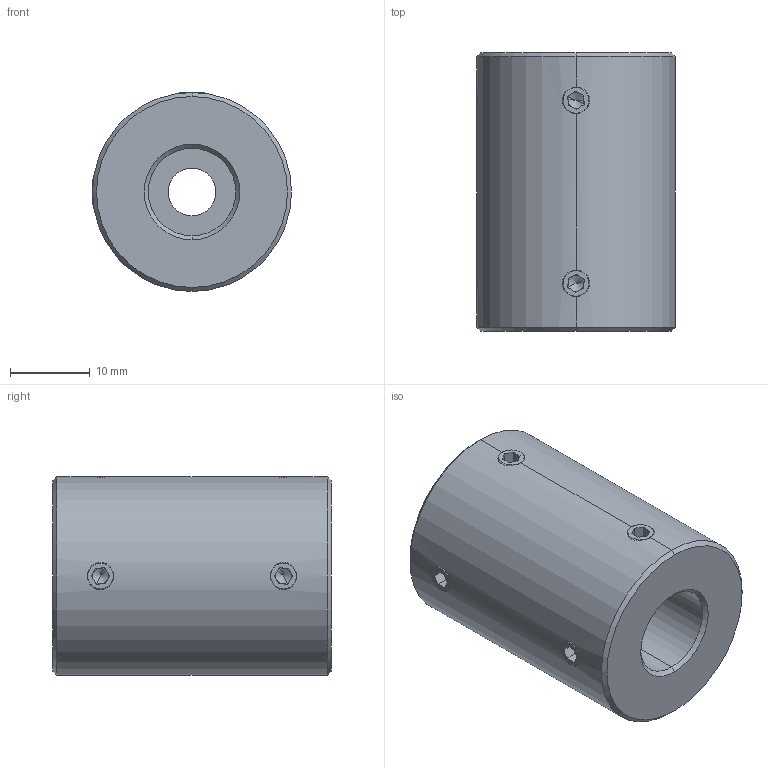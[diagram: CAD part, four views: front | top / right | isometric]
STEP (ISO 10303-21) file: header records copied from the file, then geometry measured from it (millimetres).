
FILE_DESCRIPTION (( 'STEP AP214' ), '1' );
FILE_NAME ('LL-D-D25L35-6-11½¨Ä£.STEP', '2022-07-23T00:37:20', ( '' ), ( '' ), 'SwSTEP 2.0', 'SolidWorks 2022', '' );
FILE_SCHEMA (( 'AUTOMOTIVE_DESIGN' ));
Length unit declared in the file: millimetre
Products named in the file (1): LL-D-D25L35-6-11膘耀
Bounding box: 25 x 35 x 25 mm (x, y, z)
Volume: 14822.6 mm3; surface area: 4797.5 mm2
Topology: 1 solids, 1 shells, 113 faces, 286 edges, 176 vertices
Faces by surface type: plane 59, cone 32, cylinder 22
Entity records: 3718 total; most frequent: CARTESIAN_POINT 1008, DIRECTION 558, ORIENTED_EDGE 556, EDGE_CURVE 278, AXIS2_PLACEMENT_3D 206, VERTEX_POINT 176, LINE 146, VECTOR 146
